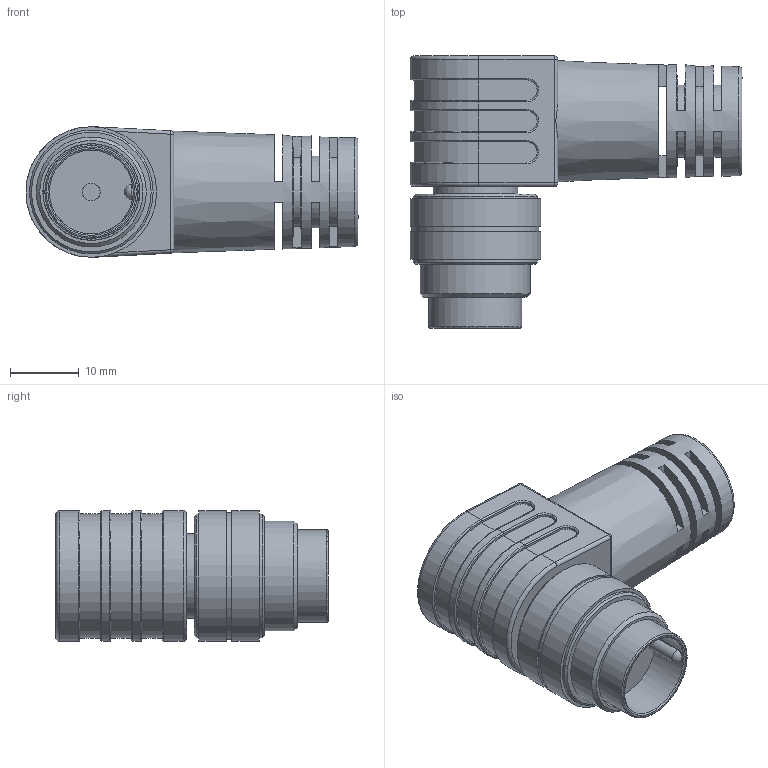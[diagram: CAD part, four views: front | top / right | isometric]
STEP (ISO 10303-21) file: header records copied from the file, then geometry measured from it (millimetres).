
FILE_DESCRIPTION((''),'2;1');
FILE_NAME('C:\TurckZip\MFGD0028.stp','2010-04-26T14:42:51',('IKOROL'),(''),'Autodesk Inventor 2009','Autodesk Inventor 2009','');
FILE_SCHEMA(('CONFIG_CONTROL_DESIGN'));
Length unit declared in the file: millimetre
Products named in the file (1): Part4
Bounding box: 48.3 x 39.6 x 19 mm (x, y, z)
Volume: 14241.7 mm3; surface area: 9584.1 mm2
Topology: 1 solids, 23 shells, 466 faces, 1116 edges, 735 vertices
Faces by surface type: plane 228, cylinder 181, cone 24, bspline 18, torus 11, sphere 4
Full cylindrical faces by diameter (mm): 0.9 x1, 1 x12, 1.3 x1, 1.625 x12, 7.5 x1, 10.5 x1, 11.8 x1, 12.2 x1, 12.3 x2, 12.4 x1, 12.6 x1, 12.9 x2, 13.5 x1, 13.6 x1, 14.1 x1, 14.5 x1, 14.92 x1, 16 x1, 18 x2, 18.5 x1, 19 x2
Entity records: 14092 total; most frequent: CARTESIAN_POINT 3429, DIRECTION 2242, ORIENTED_EDGE 2042, EDGE_CURVE 1021, AXIS2_PLACEMENT_3D 863, VERTEX_POINT 700, EDGE_LOOP 575, VECTOR 516
